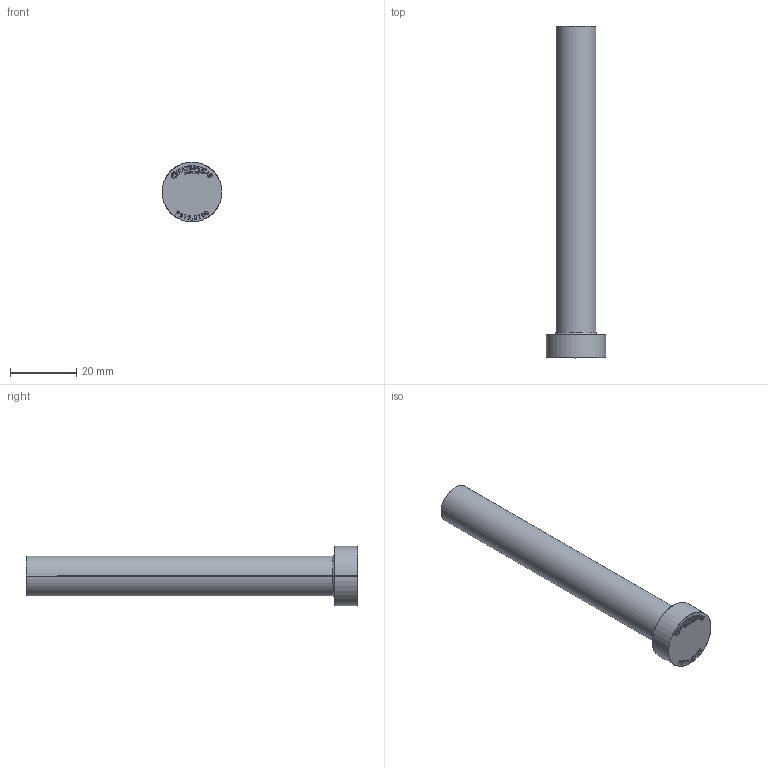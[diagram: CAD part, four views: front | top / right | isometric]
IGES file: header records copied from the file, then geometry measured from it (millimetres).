
Start section: SolidWorks IGES file using analytic representation for surfaces
Global section: file name: C:\Users\User\Downloads\Matripeça 31-08 tar\PB - PINO EXTRATOR TIPO _B_ (CATÁLOGO)\PB12,0\PB12,0100.IGS; native system: SolidWorks 2024; preprocessor: SolidWorks 2024; author: User; date: 260901.150853; units: millimetre
Bounding box: 18 x 100 x 18 mm (x, y, z)
Surface area: 4412.1 mm2 (no closed solid volume)
Topology: 0 solids, 0 shells, 390 faces, 3896 edges, 3896 vertices
Faces by surface type: bspline 376, revolution 14
